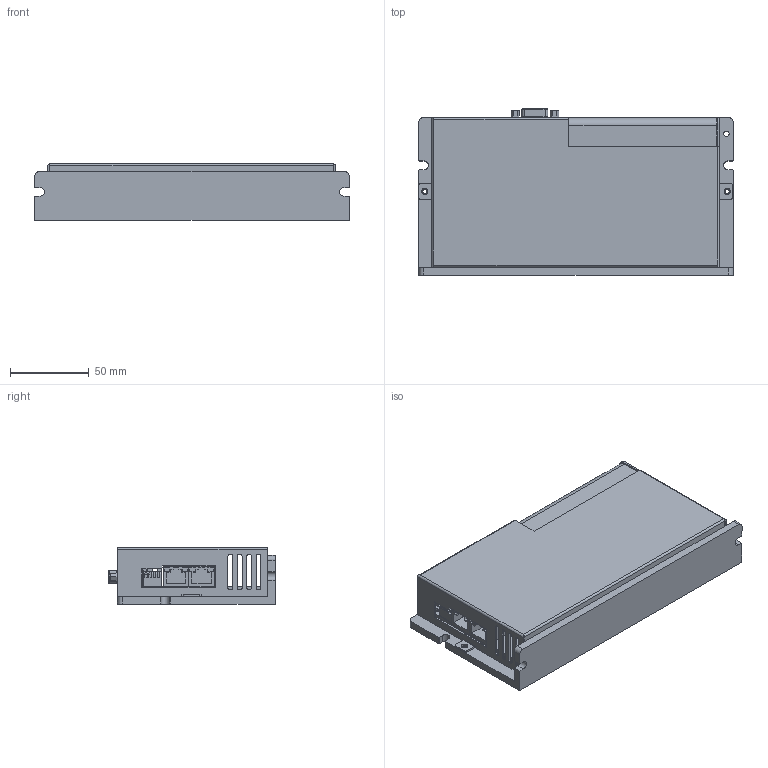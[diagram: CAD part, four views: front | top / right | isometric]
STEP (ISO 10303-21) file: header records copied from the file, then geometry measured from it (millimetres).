
FILE_DESCRIPTION((''),'2;1');
FILE_NAME('000-FD144S_ASM','2022-11-09T10:11:36',('RD0060'),(''),'CREO PARAMETRIC BY PTC INC, 2016510','CREO PARAMETRIC BY PTC INC, 2016510','');
FILE_SCHEMA(('CONFIG_CONTROL_DESIGN'));
Length unit declared in the file: millimetre
Products named in the file (14): PCB-143A; DINKLE_ESKW116V_07P; DINKLE-0156-2512L; DINKLE-0156-2512L_ASM; WEBKOU_15; BOMA_4; 15ZHEN-DAOLISHI_2; ASSY_PCA_BOTTOM_ASM; FD144HT; FD144-CAHS; M300; 000; SCREW_M4X9; 000-FD144S_ASM
Assembly tree (28 placements, depth 4):
  000-FD144S_ASM
    ASSY_PCA_BOTTOM_ASM
      PCB-143A
      DINKLE_ESKW116V_07P
      DINKLE-0156-2512L_ASM
        DINKLE-0156-2512L
      WEBKOU_15  x3
      BOMA_4
      15ZHEN-DAOLISHI_2
    FD144HT
    FD144-CAHS
    M300  x8
    000
    SCREW_M4X9  x7
Bounding box: 200 x 106.03 x 35.8 mm (x, y, z)
Volume: 272647.3 mm3; surface area: 186443.7 mm2
Topology: 38 solids, 38 shells, 1558 faces, 3765 edges, 2392 vertices
Faces by surface type: plane 779, cylinder 545, bspline 168, torus 36, cone 30
Entity records: 27237 total; most frequent: CARTESIAN_POINT 5931, DIRECTION 4485, ORIENTED_EDGE 4222, EDGE_CURVE 2111, AXIS2_PLACEMENT_3D 1545, VECTOR 1395, LINE 1395, VERTEX_POINT 1370
